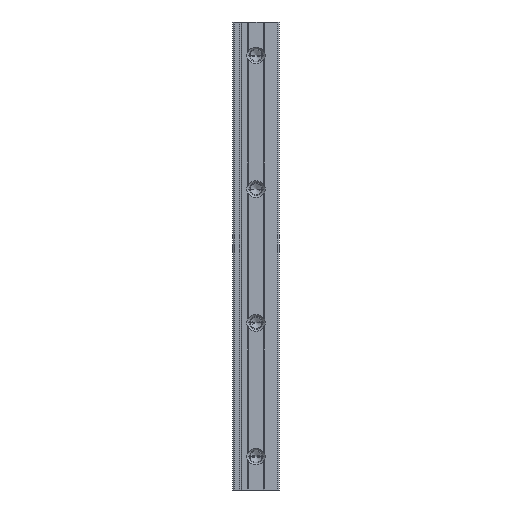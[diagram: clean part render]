
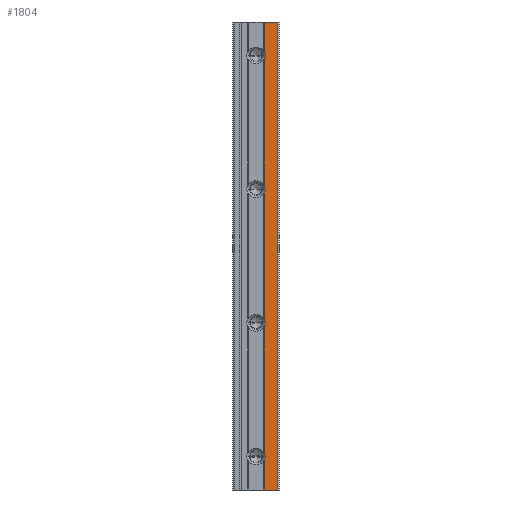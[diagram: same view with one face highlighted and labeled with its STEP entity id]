
A CAD part, front view. The second image highlights one B-rep face of the part: STEP entity #1804.
In plain terms, the highlighted planar face has unit normal (0, -1, 0).
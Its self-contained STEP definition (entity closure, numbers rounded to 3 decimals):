
#74 = CARTESIAN_POINT ( 'NONE',  ( 14., 0., -20. ) ) ;
#84 = ORIENTED_EDGE ( 'NONE', *, *, #2500, .F. ) ;
#86 = AXIS2_PLACEMENT_3D ( 'NONE', #1059, #734, #389 ) ;
#107 = VERTEX_POINT ( 'NONE', #1545 ) ;
#186 = VERTEX_POINT ( 'NONE', #3114 ) ;
#216 = LINE ( 'NONE', #3010, #2963 ) ;
#264 = EDGE_CURVE ( 'NONE', #2278, #186, #1740, .T. ) ;
#298 = DIRECTION ( 'NONE',  ( 0., 1., 0. ) ) ;
#389 = DIRECTION ( 'NONE',  ( -1., 0., 0. ) ) ;
#419 = EDGE_CURVE ( 'NONE', #2114, #2199, #1369, .T. ) ;
#490 = EDGE_CURVE ( 'NONE', #2259, #186, #868, .T. ) ;
#496 = CARTESIAN_POINT ( 'NONE',  ( 19., 0., -22.409 ) ) ;
#503 = DIRECTION ( 'NONE',  ( -1., 0., 0. ) ) ;
#566 = PLANE ( 'NONE',  #1388 ) ;
#587 = ORIENTED_EDGE ( 'NONE', *, *, #490, .T. ) ;
#603 = CARTESIAN_POINT ( 'NONE',  ( 19., 0., -97.591 ) ) ;
#622 = CIRCLE ( 'NONE', #684, 5.55 ) ;
#640 = AXIS2_PLACEMENT_3D ( 'NONE', #2075, #1757, #1462 ) ;
#684 = AXIS2_PLACEMENT_3D ( 'NONE', #2947, #1718, #1421 ) ;
#710 = EDGE_CURVE ( 'NONE', #2199, #940, #622, .T. ) ;
#734 = DIRECTION ( 'NONE',  ( 0., 1., 0. ) ) ;
#799 = CARTESIAN_POINT ( 'NONE',  ( 19., 0., -257.591 ) ) ;
#835 = DIRECTION ( 'NONE',  ( 0., 1., 0. ) ) ;
#868 = CIRCLE ( 'NONE', #3023, 5.55 ) ;
#884 = FACE_OUTER_BOUND ( 'NONE', #2965, .T. ) ;
#940 = VERTEX_POINT ( 'NONE', #1224 ) ;
#973 = AXIS2_PLACEMENT_3D ( 'NONE', #1616, #298, #3089 ) ;
#976 = EDGE_CURVE ( 'NONE', #2961, #2259, #1130, .T. ) ;
#987 = EDGE_CURVE ( 'NONE', #2278, #1662, #2707, .T. ) ;
#1013 = EDGE_CURVE ( 'NONE', #1079, #1658, #1611, .T. ) ;
#1032 = VERTEX_POINT ( 'NONE', #2188 ) ;
#1058 = AXIS2_PLACEMENT_3D ( 'NONE', #2480, #2169, #1865 ) ;
#1059 = CARTESIAN_POINT ( 'NONE',  ( 14., 0., -100. ) ) ;
#1079 = VERTEX_POINT ( 'NONE', #1187 ) ;
#1090 = DIRECTION ( 'NONE',  ( 0., 0., 1. ) ) ;
#1110 = DIRECTION ( 'NONE',  ( 0., 0., 1. ) ) ;
#1119 = CIRCLE ( 'NONE', #640, 5.55 ) ;
#1130 = CIRCLE ( 'NONE', #1058, 5.55 ) ;
#1161 = AXIS2_PLACEMENT_3D ( 'NONE', #2011, #1707, #1409 ) ;
#1174 = CARTESIAN_POINT ( 'NONE',  ( 14., 0., -260. ) ) ;
#1187 = CARTESIAN_POINT ( 'NONE',  ( 19., 0., -17.591 ) ) ;
#1211 = ORIENTED_EDGE ( 'NONE', *, *, #419, .T. ) ;
#1224 = CARTESIAN_POINT ( 'NONE',  ( 19., 0., -182.409 ) ) ;
#1230 = EDGE_CURVE ( 'NONE', #2961, #940, #216, .T. ) ;
#1236 = DIRECTION ( 'NONE',  ( 0., 0., 1. ) ) ;
#1250 = EDGE_CURVE ( 'NONE', #2184, #107, #2496, .T. ) ;
#1257 = DIRECTION ( 'NONE',  ( 0., 0., 1. ) ) ;
#1351 = VERTEX_POINT ( 'NONE', #496 ) ;
#1369 = CIRCLE ( 'NONE', #973, 5.55 ) ;
#1388 = AXIS2_PLACEMENT_3D ( 'NONE', #3024, #2703, #2404 ) ;
#1399 = AXIS2_PLACEMENT_3D ( 'NONE', #74, #2574, #2254 ) ;
#1409 = DIRECTION ( 'NONE',  ( -1., 0., 0. ) ) ;
#1421 = DIRECTION ( 'NONE',  ( -1., 0., 0. ) ) ;
#1425 = CARTESIAN_POINT ( 'NONE',  ( 19., 0., -280. ) ) ;
#1439 = CARTESIAN_POINT ( 'NONE',  ( 19., 0., -280. ) ) ;
#1462 = DIRECTION ( 'NONE',  ( -1., 0., 0. ) ) ;
#1463 = ORIENTED_EDGE ( 'NONE', *, *, #710, .T. ) ;
#1540 = EDGE_CURVE ( 'NONE', #2184, #1351, #2202, .T. ) ;
#1545 = CARTESIAN_POINT ( 'NONE',  ( 19.55, 0., -100. ) ) ;
#1547 = CARTESIAN_POINT ( 'NONE',  ( 19., 0., -280. ) ) ;
#1556 = EDGE_CURVE ( 'NONE', #1712, #1032, #2744, .T. ) ;
#1565 = CARTESIAN_POINT ( 'NONE',  ( 27., 0., -280. ) ) ;
#1590 = DIRECTION ( 'NONE',  ( 0., 0., 1. ) ) ;
#1611 = CIRCLE ( 'NONE', #1399, 5.55 ) ;
#1616 = CARTESIAN_POINT ( 'NONE',  ( 14., 0., -180. ) ) ;
#1624 = ORIENTED_EDGE ( 'NONE', *, *, #1230, .F. ) ;
#1658 = VERTEX_POINT ( 'NONE', #2534 ) ;
#1662 = VERTEX_POINT ( 'NONE', #2215 ) ;
#1667 = CARTESIAN_POINT ( 'NONE',  ( 19.55, 0., -260. ) ) ;
#1699 = ORIENTED_EDGE ( 'NONE', *, *, #2959, .T. ) ;
#1700 = VECTOR ( 'NONE', #2101, 1000. ) ;
#1707 = DIRECTION ( 'NONE',  ( 0., 1., 0. ) ) ;
#1712 = VERTEX_POINT ( 'NONE', #1759 ) ;
#1718 = DIRECTION ( 'NONE',  ( 0., 1., 0. ) ) ;
#1723 = LINE ( 'NONE', #1425, #2734 ) ;
#1740 = LINE ( 'NONE', #1439, #2681 ) ;
#1742 = ORIENTED_EDGE ( 'NONE', *, *, #2094, .T. ) ;
#1757 = DIRECTION ( 'NONE',  ( 0., 1., 0. ) ) ;
#1759 = CARTESIAN_POINT ( 'NONE',  ( 19., 0., 0. ) ) ;
#1768 = VECTOR ( 'NONE', #1236, 1000. ) ;
#1780 = ORIENTED_EDGE ( 'NONE', *, *, #1250, .T. ) ;
#1786 = ORIENTED_EDGE ( 'NONE', *, *, #3082, .F. ) ;
#1804 = ADVANCED_FACE ( 'NONE', ( #884 ), #566, .T. ) ;
#1809 = ORIENTED_EDGE ( 'NONE', *, *, #264, .F. ) ;
#1816 = CARTESIAN_POINT ( 'NONE',  ( 19.55, 0., -180. ) ) ;
#1865 = DIRECTION ( 'NONE',  ( -1., 0., 0. ) ) ;
#1875 = LINE ( 'NONE', #1565, #2178 ) ;
#1892 = ORIENTED_EDGE ( 'NONE', *, *, #1013, .T. ) ;
#1896 = CARTESIAN_POINT ( 'NONE',  ( 19., 0., -280. ) ) ;
#1907 = CARTESIAN_POINT ( 'NONE',  ( 19., 0., -102.409 ) ) ;
#2011 = CARTESIAN_POINT ( 'NONE',  ( 14., 0., -20. ) ) ;
#2024 = EDGE_CURVE ( 'NONE', #1658, #1351, #2962, .T. ) ;
#2075 = CARTESIAN_POINT ( 'NONE',  ( 14., 0., -100. ) ) ;
#2094 = EDGE_CURVE ( 'NONE', #1662, #1032, #1875, .T. ) ;
#2101 = DIRECTION ( 'NONE',  ( 1., 0., 0. ) ) ;
#2114 = VERTEX_POINT ( 'NONE', #3116 ) ;
#2129 = DIRECTION ( 'NONE',  ( 1., 0., 0. ) ) ;
#2136 = VECTOR ( 'NONE', #1590, 1000. ) ;
#2163 = LINE ( 'NONE', #1547, #1768 ) ;
#2169 = DIRECTION ( 'NONE',  ( 0., 1., 0. ) ) ;
#2178 = VECTOR ( 'NONE', #1257, 1000. ) ;
#2184 = VERTEX_POINT ( 'NONE', #603 ) ;
#2188 = CARTESIAN_POINT ( 'NONE',  ( 27., 0., 0. ) ) ;
#2199 = VERTEX_POINT ( 'NONE', #1816 ) ;
#2202 = LINE ( 'NONE', #1896, #2136 ) ;
#2210 = CARTESIAN_POINT ( 'NONE',  ( 19., 0., -280. ) ) ;
#2215 = CARTESIAN_POINT ( 'NONE',  ( 27., 0., -280. ) ) ;
#2254 = DIRECTION ( 'NONE',  ( -1., 0., 0. ) ) ;
#2259 = VERTEX_POINT ( 'NONE', #1667 ) ;
#2278 = VERTEX_POINT ( 'NONE', #2210 ) ;
#2289 = VERTEX_POINT ( 'NONE', #1907 ) ;
#2338 = ORIENTED_EDGE ( 'NONE', *, *, #2024, .T. ) ;
#2369 = ORIENTED_EDGE ( 'NONE', *, *, #1556, .F. ) ;
#2386 = ORIENTED_EDGE ( 'NONE', *, *, #987, .T. ) ;
#2404 = DIRECTION ( 'NONE',  ( 0., 0., -1. ) ) ;
#2410 = CARTESIAN_POINT ( 'NONE',  ( 19., 0., -280. ) ) ;
#2443 = CARTESIAN_POINT ( 'NONE',  ( 19., 0., 0. ) ) ;
#2480 = CARTESIAN_POINT ( 'NONE',  ( 14., 0., -260. ) ) ;
#2496 = CIRCLE ( 'NONE', #86, 5.55 ) ;
#2500 = EDGE_CURVE ( 'NONE', #2114, #2289, #1723, .T. ) ;
#2529 = VECTOR ( 'NONE', #2129, 1000. ) ;
#2534 = CARTESIAN_POINT ( 'NONE',  ( 19.55, 0., -20. ) ) ;
#2548 = ORIENTED_EDGE ( 'NONE', *, *, #1540, .F. ) ;
#2574 = DIRECTION ( 'NONE',  ( 0., 1., 0. ) ) ;
#2681 = VECTOR ( 'NONE', #1110, 1000. ) ;
#2688 = DIRECTION ( 'NONE',  ( 0., 0., 1. ) ) ;
#2703 = DIRECTION ( 'NONE',  ( 0., -1., 0. ) ) ;
#2707 = LINE ( 'NONE', #2410, #1700 ) ;
#2734 = VECTOR ( 'NONE', #1090, 1000. ) ;
#2744 = LINE ( 'NONE', #2443, #2529 ) ;
#2938 = ORIENTED_EDGE ( 'NONE', *, *, #976, .T. ) ;
#2947 = CARTESIAN_POINT ( 'NONE',  ( 14., 0., -180. ) ) ;
#2959 = EDGE_CURVE ( 'NONE', #107, #2289, #1119, .T. ) ;
#2961 = VERTEX_POINT ( 'NONE', #799 ) ;
#2962 = CIRCLE ( 'NONE', #1161, 5.55 ) ;
#2963 = VECTOR ( 'NONE', #2688, 1000. ) ;
#2965 = EDGE_LOOP ( 'NONE', ( #2938, #587, #1809, #2386, #1742, #2369, #1786, #1892, #2338, #2548, #1780, #1699, #84, #1211, #1463, #1624 ) ) ;
#3010 = CARTESIAN_POINT ( 'NONE',  ( 19., 0., -280. ) ) ;
#3023 = AXIS2_PLACEMENT_3D ( 'NONE', #1174, #835, #503 ) ;
#3024 = CARTESIAN_POINT ( 'NONE',  ( 19., 0., -280. ) ) ;
#3082 = EDGE_CURVE ( 'NONE', #1079, #1712, #2163, .T. ) ;
#3089 = DIRECTION ( 'NONE',  ( -1., 0., 0. ) ) ;
#3114 = CARTESIAN_POINT ( 'NONE',  ( 19., 0., -262.409 ) ) ;
#3116 = CARTESIAN_POINT ( 'NONE',  ( 19., 0., -177.591 ) ) ;
